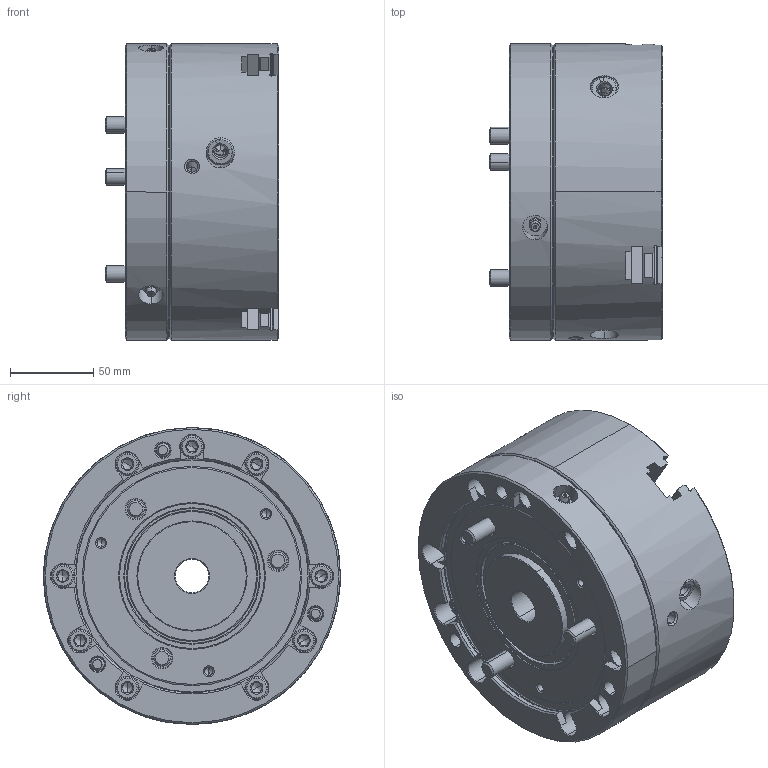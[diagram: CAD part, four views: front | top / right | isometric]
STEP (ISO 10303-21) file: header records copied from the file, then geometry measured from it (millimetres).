
FILE_DESCRIPTION (( 'STEP AP214' ), '1' );
FILE_NAME ('QJR07-00_OC.STEP', '2025-04-16T06:02:54', ( '' ), ( '' ), 'SwSTEP 2.0', 'SolidWorks 2022', '' );
FILE_SCHEMA (( 'AUTOMOTIVE_DESIGN' ));
Length unit declared in the file: millimetre
Products named in the file (3): Copy of 61P473088^QJR07-00_61P268931; QJR07-00_OC; 閉端^QJR07-00_61P268931
Assembly tree (2 placements, depth 2):
  QJR07-00_OC
    Copy of 61P473088^QJR07-00_61P268931
    閉端^QJR07-00_61P268931
Bounding box: 104 x 178 x 178 mm (x, y, z)
Volume: 1899015.3 mm3; surface area: 203688.7 mm2
Topology: 2 solids, 27 shells, 1203 faces, 2994 edges, 1842 vertices
Faces by surface type: cone 441, plane 422, cylinder 292, torus 42, sphere 6
Entity records: 38459 total; most frequent: CARTESIAN_POINT 10074, DIRECTION 5863, ORIENTED_EDGE 5836, EDGE_CURVE 2918, AXIS2_PLACEMENT_3D 2357, VERTEX_POINT 1842, EDGE_LOOP 1318, ADVANCED_FACE 1203
